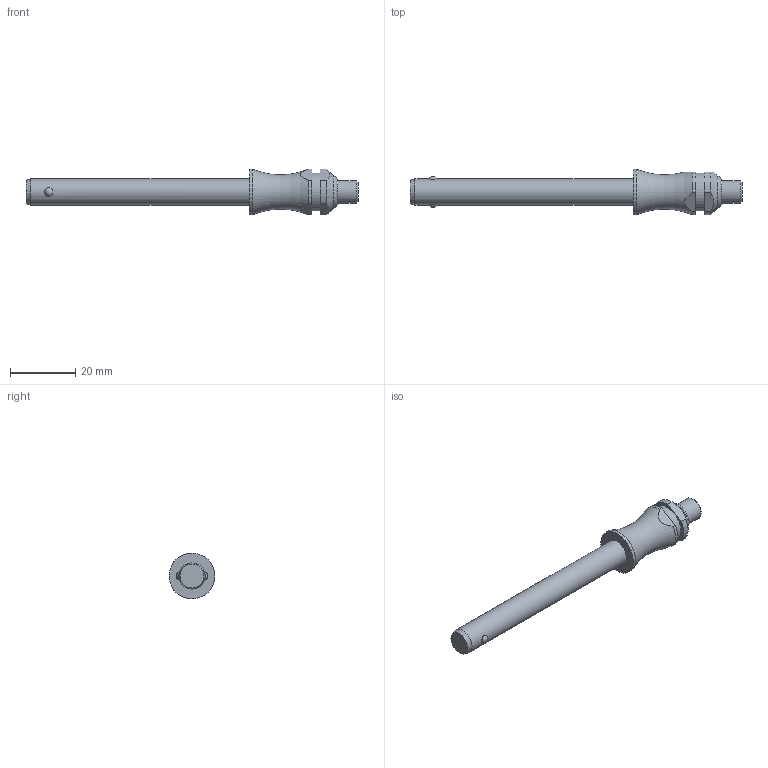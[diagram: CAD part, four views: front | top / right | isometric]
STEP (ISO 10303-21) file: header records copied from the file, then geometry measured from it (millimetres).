
FILE_DESCRIPTION( ( 'STEP AP203' ), '1' );
FILE_NAME( 'C:/Temp/Ganter_Step_05_03_2020/data/3_1/gn113_3/Stainless Steel-Ball lock pin GN 113.3-8-60 (deactivated).stp', '2020-03-12T08:18:27', ( 'License CC BY-ND 4.0' ), ( 'CADENAS' ), ' ', 'PARTsolutions', ' ' );
FILE_SCHEMA( ( 'CONFIG_CONTROL_DESIGN' ) );
Length unit declared in the file: millimetre
Products named in the file (1): _Stainless Steel-Ball lock pin GN 113.3-8-60 (deactivated)
Bounding box: 101.5 x 14 x 14 mm (x, y, z)
Volume: 6647.9 mm3; surface area: 3171.4 mm2
Topology: 1 solids, 1 shells, 28 faces, 60 edges, 39 vertices
Faces by surface type: plane 11, cylinder 10, cone 3, torus 2, sphere 2
Full cylindrical faces by diameter (mm): 7 x1, 8 x1, 11.6 x1, 14 x1
Entity records: 916 total; most frequent: CARTESIAN_POINT 303, DIRECTION 122, ORIENTED_EDGE 98, AXIS2_PLACEMENT_3D 52, EDGE_CURVE 49, EDGE_LOOP 42, VERTEX_POINT 37, FACE_OUTER_BOUND 34
